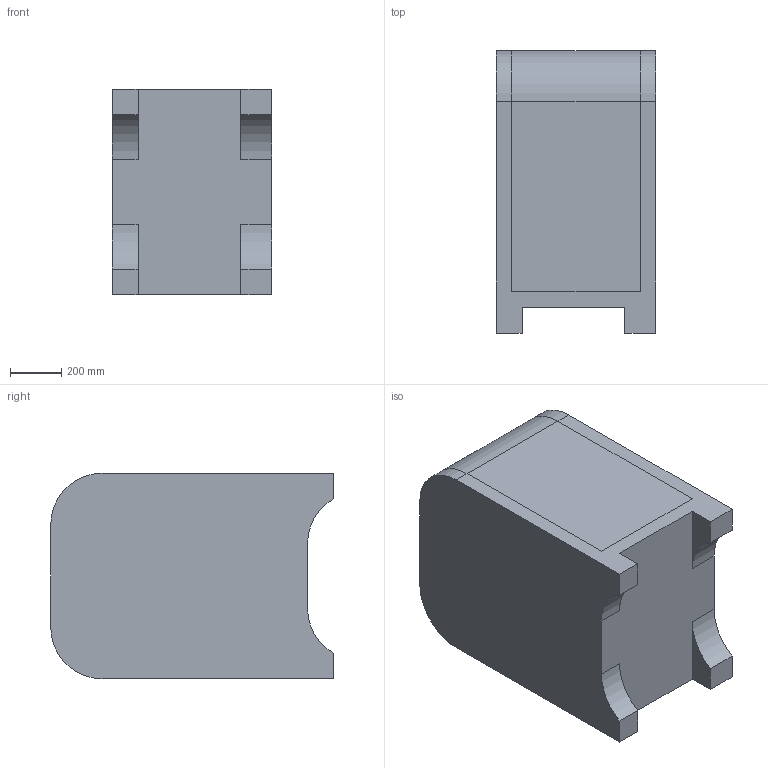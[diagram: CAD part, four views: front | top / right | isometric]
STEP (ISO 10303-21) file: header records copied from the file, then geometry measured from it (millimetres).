
FILE_DESCRIPTION(/* description */ (''),/* implementation_level */ '2;1');
FILE_NAME(/* name */ 'N:\0_Question Bank\Assignment\Inventor\Environment\Bin.stp',/* time_stamp */ '2023-12-05T15:01:55+00:00',/* author */ ('aphee'),/* organization */ (''),/* preprocessor_version */ 'ST-DEVELOPER v18.1',/* originating_system */ 'Autodesk Inventor 2022',/* authorisation */ '');
FILE_SCHEMA (('AUTOMOTIVE_DESIGN { 1 0 10303 214 3 1 1 }'));
Length unit declared in the file: millimetre
Products named in the file (5): Bin; Part2_Body; Part2_Body2; Part2_Flap; Part2_Front
Assembly tree (4 placements, depth 2):
  Bin
    Part2_Body
    Part2_Body2
    Part2_Flap
    Part2_Front
Bounding box: 620 x 1100 x 800 mm (x, y, z)
Volume: 78007616.3 mm3; surface area: 7795448.4 mm2
Topology: 4 solids, 4 shells, 93 faces, 255 edges, 170 vertices
Faces by surface type: plane 64, cylinder 29
Entity records: 3155 total; most frequent: CARTESIAN_POINT 527, DIRECTION 517, ORIENTED_EDGE 510, EDGE_CURVE 255, LINE 197, VECTOR 197, VERTEX_POINT 170, AXIS2_PLACEMENT_3D 160
